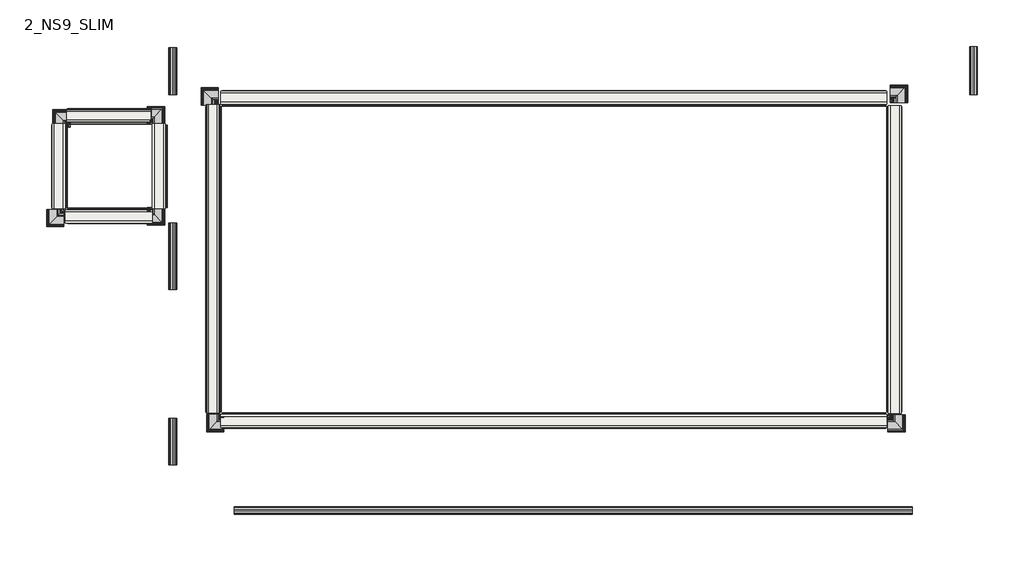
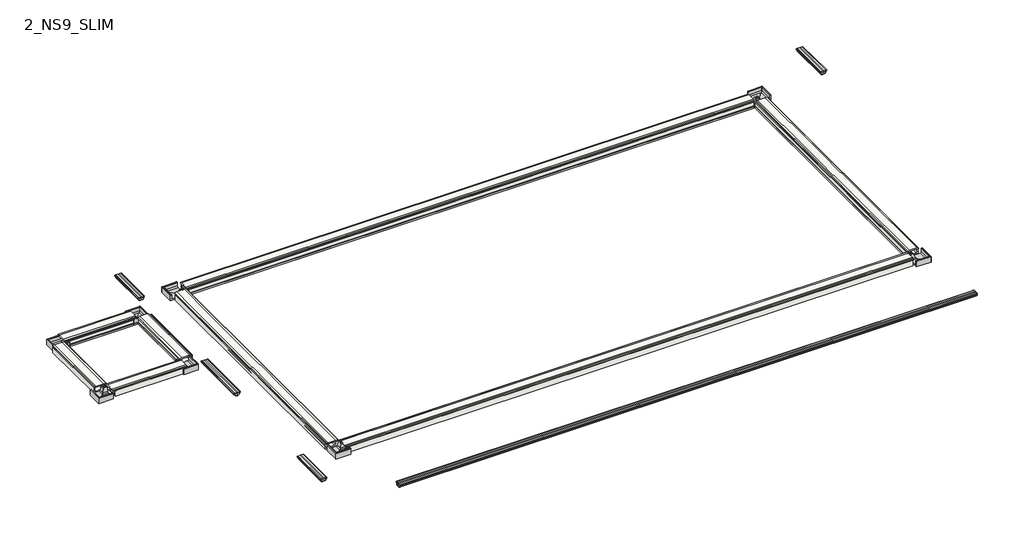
# One storey, incomplete: 26 slabs, 8 proxies.
"""IFC4 building model written with IfcOpenShell, lengths in millimetres."""

from ifc_helpers import new_model, si_unit, origin, place, context, project, spatial, transform, mapped, element, save
from components import bloque_rs_933_df1aee71, slab_af1f98bc, slab_bb339371, slab_83b65e3d, slab_2c4ff7e9, slab_7d5740a9, slab_a5560b30, slab_1a996d3c, slab_4836348c, slab_16e6cf99, slab_8a1322a0, slab_3995c372, slab_39e70c32, slab_14fbaea6, slab_d162e550, slab_0f36bf91, slab_4d192273, slab_b1a4c698, slab_b985033c, bloque_rs_941_514d8145, bloque_rs_941_059d9b8e, bloque_rs_941_a42575e4, bloque_rs_941_9b4ddc65

model = new_model("IFC4")

# Units and contexts
model_context = context("Model", 3, world=origin())
ifc_project = project(units=[si_unit("LENGTHUNIT", "METRE", prefix="MILLI")], contexts=[model_context])

# Site, building, storey
site = spatial("IfcSite", under=ifc_project)
building = spatial("IfcBuilding", under=site)
storey = spatial("IfcBuildingStorey", under=building, Name="2_NS9_SLIM", Elevation=-148.0)

# Proxies
placement = place(None, origin())
bloque_rs_933_shape = bloque_rs_933_df1aee71(model_context)
element("IfcBuildingElementProxy", 1, Name="ROSA GRES_RS 933 : Bloque RS 933", ObjectType="ROSA GRES_RS 933 : Bloque RS 933", at=placement, inside=storey, context=model_context, shape_type="MappedRepresentation", body=[
    mapped(bloque_rs_933_shape, transform((13743.3039535, 7148.7270206, -148.0), x_axis=(0.0, -1.0, 0.0), y_axis=(1.0, 0.0, 0.0), z_axis=(0.0, 0.0, 1.0))),
])
element("IfcBuildingElementProxy", 2, Name="ROSA GRES_RS 933 : Bloque RS 933", ObjectType="ROSA GRES_RS 933 : Bloque RS 933", at=placement, inside=storey, context=model_context, shape_type="MappedRepresentation", body=[
    mapped(bloque_rs_933_shape, transform((13788.3039535, 13446.5216475, -148.0), x_axis=(1.0, 0.0, 0.0), y_axis=(0.0, 1.0, 0.0), z_axis=(0.0, 0.0, 1.0))),
])
element("IfcBuildingElementProxy", 3, Name="ROSA GRES_RS 933 : Bloque RS 933", ObjectType="ROSA GRES_RS 933 : Bloque RS 933", at=placement, inside=storey, context=model_context, shape_type="MappedRepresentation", body=[
    mapped(bloque_rs_933_shape, transform((969.3912143, 13399.2201329, -148.0), x_axis=(0.0, 1.0, 0.0), y_axis=(-1.0, 0.0, 0.0), z_axis=(0.0, 0.0, 1.0))),
])
element("IfcBuildingElementProxy", 4, Name="ROSA GRES_RS 933 : Bloque RS 933", ObjectType="ROSA GRES_RS 933 : Bloque RS 933", at=placement, inside=storey, context=model_context, shape_type="MappedRepresentation", body=[
    mapped(bloque_rs_933_shape, transform((1069.3912143, 7150.1089083, -148.0), x_axis=(-1.0, 0.0, 0.0), y_axis=(0.0, -1.0, 0.0), z_axis=(0.0, 0.0, 1.0))),
])
element("IfcBuildingElementProxy", 5, Name="ROSA GRES_RS 933 : Bloque RS 933", ObjectType="ROSA GRES_RS 933 : Bloque RS 933", at=placement, inside=storey, context=model_context, shape_type="MappedRepresentation", body=[
    mapped(bloque_rs_933_shape, transform((-1719.4906752, 12997.2270206, -148.0), x_axis=(0.0, 1.0, 0.0), y_axis=(-1.0, 0.0, 0.0), z_axis=(0.0, 0.0, 1.0))),
])
element("IfcBuildingElementProxy", 6, Name="ROSA GRES_RS 933 : Bloque RS 933", ObjectType="ROSA GRES_RS 933 : Bloque RS 933", at=placement, inside=storey, context=model_context, shape_type="MappedRepresentation", body=[
    mapped(bloque_rs_933_shape, transform((308.5093229, 13057.2270206, -148.0), x_axis=(1.0, 0.0, 0.0), y_axis=(0.0, 1.0, 0.0), z_axis=(0.0, 0.0, 1.0))),
])
element("IfcBuildingElementProxy", 7, Name="ROSA GRES_RS 933 : Bloque RS 933", ObjectType="ROSA GRES_RS 933 : Bloque RS 933", at=placement, inside=storey, context=model_context, shape_type="MappedRepresentation", body=[
    mapped(bloque_rs_933_shape, transform((308.5093229, 10906.7412372, -148.0), x_axis=(0.0, -1.0, 0.0), y_axis=(1.0, 0.0, 0.0), z_axis=(0.0, 0.0, 1.0))),
])
element("IfcBuildingElementProxy", 8, Name="ROSA GRES_RS 933 : Bloque RS 933", ObjectType="ROSA GRES_RS 933 : Bloque RS 933", at=placement, inside=storey, context=model_context, shape_type="MappedRepresentation", body=[
    mapped(bloque_rs_933_shape, transform((-1834.4906752, 10875.7270206, -148.0), x_axis=(-1.0, 0.0, 0.0), y_axis=(0.0, -1.0, 0.0), z_axis=(0.0, 0.0, 1.0))),
])

# Slabs
slab_shape = slab_af1f98bc(model_context)
element("IfcSlab", 9, ObjectType="ROSA GRES_121 CM : Pieza 121 CM_Tresor_Java_Anti-Slip", at=placement, inside=storey, context=model_context, shape_type="MappedRepresentation", body=[
    mapped(slab_shape, transform((524.575871, 6549.7270241, 0.0), x_axis=(0.0, 1.0, 0.0), y_axis=(-1.0, 0.0, 0.0), z_axis=(0.0, 0.0, 1.0))),
])
slab_2_shape = slab_bb339371(model_context)
element("IfcSlab", 10, ObjectType="ROSA GRES_121 CM : Pieza 121 CM_Tresor_Java_Anti-Slip", at=placement, inside=storey, context=model_context, shape_type="MappedRepresentation", body=[
    mapped(slab_2_shape, transform((525.5093267, 13277.7270206, 0.0), x_axis=(0.0, 1.0, 0.0), y_axis=(-1.0, 0.0, 0.0), z_axis=(0.0, 0.0, 1.0))),
])
slab_3_shape = slab_83b65e3d(model_context)
element("IfcSlab", 11, ObjectType="ROSA GRES_121 CM : Pieza 121 CM_Tresor_Java_Anti-Slip", at=placement, inside=storey, context=model_context, shape_type="MappedRepresentation", body=[
    mapped(slab_3_shape, transform((525.5093267, 9733.7270282, 0.0), x_axis=(0.0, 1.0, 0.0), y_axis=(-1.0, 0.0, 0.0), z_axis=(0.0, 0.0, 1.0))),
])
slab_4_shape = slab_2c4ff7e9(model_context)
element("IfcSlab", 12, ObjectType="ROSA GRES_121 CM : Pieza 121 CM_Tresor_Java_Anti-Slip", at=placement, inside=storey, context=model_context, shape_type="MappedRepresentation", body=[
    mapped(slab_4_shape, transform((15055.3566163, 13277.7270206, 0.0), x_axis=(0.0, 1.0, 0.0), y_axis=(-1.0, 0.0, 0.0), z_axis=(0.0, 0.0, 1.0))),
])
slab_5_shape = slab_7d5740a9(model_context)
element("IfcSlab", 13, ObjectType="ROSA GRES_121 CM : Pieza 121 CM_Tresor_Java_Anti-Slip", at=placement, inside=storey, context=model_context, shape_type="MappedRepresentation", body=[
    mapped(slab_5_shape, transform((1570.5093267, 5659.9770241, 0.0), x_axis=(1.0, 0.0, 0.0), y_axis=(0.0, 1.0, 0.0), z_axis=(0.0, 0.0, 1.0))),
])
slab_6_shape = slab_a5560b30(model_context)
element("IfcSlab", 14, ObjectType="ROSA GRES_CRA C1 : Pieza CRA C1", at=placement, inside=storey, context=model_context, shape_type="MappedRepresentation", body=[
    mapped(slab_6_shape, transform((13869.2593267, 5653.7270241, -1.0), x_axis=(-1.0, 0.0, 0.0), y_axis=(0.0, -1.0, 0.0), z_axis=(0.0, 0.0, 1.0))),
])
slab_7_shape = slab_1a996d3c(model_context)
element("IfcSlab", 15, ObjectType="ROSA GRES_245 FL_Colocación en plano : Rejilla 245 FL_Tresor_Java_Anti-Slip", at=placement, inside=storey, context=model_context, shape_type="MappedRepresentation", body=[
    mapped(slab_7_shape, transform((13677.6591842, 7489.7270206, 0.0), x_axis=(0.0, 1.0, 0.0), y_axis=(-1.0, 0.0, 0.0), z_axis=(0.0, 0.0, 1.0))),
])
slab_8_shape = slab_4836348c(model_context)
element("IfcSlab", 16, ObjectType="ROSA GRES_245 FL_Colocación en plano : Rejilla 245 FL_Tresor_Java_Anti-Slip", at=placement, inside=storey, context=model_context, shape_type="MappedRepresentation", body=[
    mapped(slab_8_shape, transform((1328.42927, 13341.2270206, 0.0), x_axis=(1.0, 0.0, 0.0), y_axis=(0.0, 1.0, 0.0), z_axis=(0.0, 0.0, 1.0))),
])
slab_9_shape = slab_16e6cf99(model_context)
element("IfcSlab", 17, ObjectType="ROSA GRES_245 FL_Colocación en plano : Rejilla 245 FL_Tresor_Java_Anti-Slip", at=placement, inside=storey, context=model_context, shape_type="MappedRepresentation", body=[
    mapped(slab_9_shape, transform((1062.2142613, 13092.2270206, 0.0), x_axis=(0.0, -1.0, 0.0), y_axis=(1.0, 0.0, 0.0), z_axis=(0.0, 0.0, 1.0))),
])
slab_10_shape = slab_8a1322a0(model_context)
element("IfcSlab", 18, ObjectType="ROSA GRES_245 FL_Colocación en plano : Rejilla 245 FL_Tresor_Java_Anti-Slip", at=placement, inside=storey, context=model_context, shape_type="MappedRepresentation", body=[
    mapped(slab_10_shape, transform((1328.9846018, 7226.6819552, 0.0), x_axis=(1.0, 0.0, 0.0), y_axis=(0.0, 1.0, 0.0), z_axis=(0.0, 0.0, 1.0))),
])
slab_11_shape = slab_3995c372(model_context)
element("IfcSlab", 19, ObjectType="ROSA GRES_245 FL_Colocación en plano : Rejilla 245 FL_Tresor_Java_Anti-Slip", at=placement, inside=storey, context=model_context, shape_type="MappedRepresentation", body=[
    mapped(slab_11_shape, transform((-1734.4906752, 12746.7066801, 0.0), x_axis=(0.0, -1.0, 0.0), y_axis=(1.0, 0.0, 0.0), z_axis=(0.0, 0.0, 1.0))),
])
slab_12_shape = slab_39e70c32(model_context)
element("IfcSlab", 20, ObjectType="ROSA GRES_245 FL_Colocación en plano : Rejilla 245 FL_Tresor_Java_Anti-Slip", at=placement, inside=storey, context=model_context, shape_type="MappedRepresentation", body=[
    mapped(slab_12_shape, transform((323.5093238, 12746.7066801, 0.0), x_axis=(0.0, -1.0, 0.0), y_axis=(1.0, 0.0, 0.0), z_axis=(0.0, 0.0, 1.0))),
])
slab_13_shape = slab_14fbaea6(model_context)
element("IfcSlab", 21, ObjectType="ROSA GRES_245 FL_Colocación en plano : Rejilla 245 FL_Tresor_Java_Anti-Slip", at=placement, inside=storey, context=model_context, shape_type="MappedRepresentation", body=[
    mapped(slab_13_shape, transform((-1468.9703348, 13012.2270206, 0.0), x_axis=(1.0, 0.0, 0.0), y_axis=(0.0, 1.0, 0.0), z_axis=(0.0, 0.0, 1.0))),
])
slab_14_shape = slab_d162e550(model_context)
element("IfcSlab", 22, ObjectType="ROSA GRES_245 FL_Colocación en plano : Rejilla 245 FL_Tresor_Java_Anti-Slip", at=placement, inside=storey, context=model_context, shape_type="MappedRepresentation", body=[
    mapped(slab_14_shape, transform((-1491.3887321, 11183.7219857, 0.0), x_axis=(1.0, 0.0, 0.0), y_axis=(0.0, 1.0, 0.0), z_axis=(0.0, 0.0, 1.0))),
])
slab_15_shape = slab_0f36bf91(model_context)
element("IfcSlab", 23, ObjectType="ROSA GRES_CRA C1 : Pieza CRA C1", at=placement, inside=storey, context=model_context, shape_type="MappedRepresentation", body=[
    mapped(slab_15_shape, transform((525.5093267, 9732.7270206, 0.0), x_axis=(0.0, 1.0, 0.0), y_axis=(-1.0, 0.0, 0.0), z_axis=(0.0, 0.0, 1.0))),
])
slab_16_shape = slab_4d192273(model_context)
element("IfcSlab", 24, ObjectType="ROSA GRES_CRA C1 : Pieza CRA C1", at=placement, inside=storey, context=model_context, shape_type="MappedRepresentation", body=[
    mapped(slab_16_shape, transform((525.5093267, 13277.7270206, 0.0), x_axis=(0.0, 1.0, 0.0), y_axis=(-1.0, 0.0, 0.0), z_axis=(0.0, 0.0, 1.0))),
])
slab_17_shape = slab_b1a4c698(model_context)
element("IfcSlab", 25, ObjectType="ROSA GRES_CRA C1 : Pieza CRA C1", at=placement, inside=storey, context=model_context, shape_type="MappedRepresentation", body=[
    mapped(slab_17_shape, transform((14915.5093267, 14148.5060359, 0.0), x_axis=(0.0, -1.0, 0.0), y_axis=(1.0, 0.0, 0.0), z_axis=(0.0, 0.0, 1.0))),
])
slab_18_shape = slab_b985033c(model_context)
element("IfcSlab", 26, ObjectType="ROSA GRES_CRA C1 : Pieza CRA C1", at=placement, inside=storey, context=model_context, shape_type="MappedRepresentation", body=[
    mapped(slab_18_shape, transform((525.5093267, 6549.7270241, 0.0), x_axis=(0.0, 1.0, 0.0), y_axis=(-1.0, 0.0, 0.0), z_axis=(0.0, 0.0, 1.0))),
])
bloque_rs_941_shape = bloque_rs_941_514d8145(model_context)
element("IfcSlab", 27, ObjectType="ROSA GRES_RS 941 : Bloque_RS 941", at=placement, inside=storey, context=model_context, shape_type="MappedRepresentation", body=[
    mapped(bloque_rs_941_shape, transform((13390.5093267, 13053.7270206, -148.0), x_axis=(0.0, -1.0, 0.0), y_axis=(1.0, 0.0, 0.0), z_axis=(0.0, 0.0, 1.0))),
])
element("IfcSlab", 28, ObjectType="ROSA GRES_RS 941 : Bloque_RS 941", at=placement, inside=storey, context=model_context, shape_type="MappedRepresentation", body=[
    mapped(bloque_rs_941_shape, transform((1350.5093267, 7513.7270206, -148.0), x_axis=(0.0, 1.0, 0.0), y_axis=(-1.0, 0.0, 0.0), z_axis=(0.0, 0.0, 1.0))),
])
bloque_rs_941_2_shape = bloque_rs_941_059d9b8e(model_context)
element("IfcSlab", 29, ObjectType="ROSA GRES_RS 941 : Bloque_RS 941", at=placement, inside=storey, context=model_context, shape_type="MappedRepresentation", body=[
    mapped(bloque_rs_941_2_shape, transform((13390.5093267, 7513.7270206, -148.0), x_axis=(-1.0, 0.0, 0.0), y_axis=(0.0, -1.0, 0.0), z_axis=(0.0, 0.0, 1.0))),
])
element("IfcSlab", 30, ObjectType="ROSA GRES_RS 941 : Bloque_RS 941", at=placement, inside=storey, context=model_context, shape_type="MappedRepresentation", body=[
    mapped(bloque_rs_941_2_shape, transform((1350.5093267, 13053.7270206, -148.0), x_axis=(1.0, 0.0, 0.0), y_axis=(0.0, 1.0, 0.0), z_axis=(0.0, 0.0, 1.0))),
])
bloque_rs_941_3_shape = bloque_rs_941_a42575e4(model_context)
element("IfcSlab", 31, ObjectType="ROSA GRES_RS 941 : Bloque_RS 941", at=placement, inside=storey, context=model_context, shape_type="MappedRepresentation", body=[
    mapped(bloque_rs_941_3_shape, transform((-1446.3887321, 11226.2219857, -148.0), x_axis=(1.0, 0.0, 0.0), y_axis=(0.0, 1.0, 0.0), z_axis=(0.0, 0.0, 1.0))),
])
element("IfcSlab", 32, ObjectType="ROSA GRES_RS 941 : Bloque_RS 941", at=placement, inside=storey, context=model_context, shape_type="MappedRepresentation", body=[
    mapped(bloque_rs_941_3_shape, transform((62.9862679, 12723.7219857, -148.0), x_axis=(-1.0, 0.0, 0.0), y_axis=(0.0, -1.0, 0.0), z_axis=(0.0, 0.0, 1.0))),
])
bloque_rs_941_4_shape = bloque_rs_941_9b4ddc65(model_context)
element("IfcSlab", 33, ObjectType="ROSA GRES_RS 941 : Bloque_RS 941", at=placement, inside=storey, context=model_context, shape_type="MappedRepresentation", body=[
    mapped(bloque_rs_941_4_shape, transform((-1446.3887321, 12723.7219857, -148.0), x_axis=(0.0, -1.0, 0.0), y_axis=(1.0, 0.0, 0.0), z_axis=(0.0, 0.0, 1.0))),
])
element("IfcSlab", 34, ObjectType="ROSA GRES_RS 941 : Bloque_RS 941", at=placement, inside=storey, context=model_context, shape_type="MappedRepresentation", body=[
    mapped(bloque_rs_941_4_shape, transform((62.9862679, 11226.2219857, -148.0), x_axis=(0.0, 1.0, 0.0), y_axis=(-1.0, 0.0, 0.0), z_axis=(0.0, 0.0, 1.0))),
])

save(model, "model.ifc")
